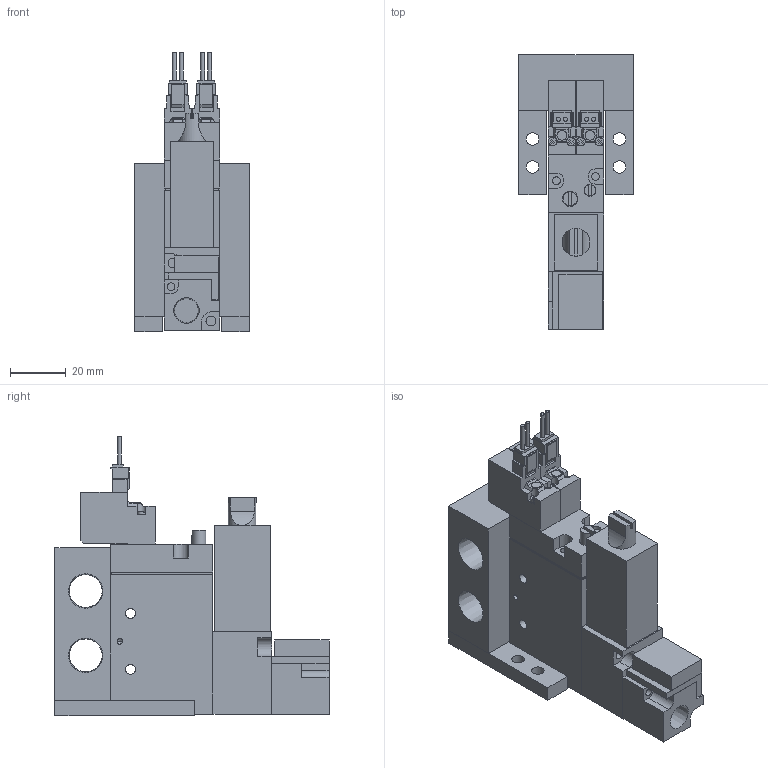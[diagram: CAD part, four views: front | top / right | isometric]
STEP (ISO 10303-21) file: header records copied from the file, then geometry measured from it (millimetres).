
FILE_DESCRIPTION(('STEP AP203'),'1');
FILE_NAME('BMPV32M2NZ25BL101.stp','2025-06-17T01:45:49',(' '),(' '),'Spatial InterOp 3D',' ',' ');
FILE_SCHEMA(('CONFIG_CONTROL_DESIGN'));
Length unit declared in the file: millimetre
Products named in the file (16): BMPV32M2NZ25BL101; MB01; MB BRACKET; S____; ___ ___2; ___-2(Rc); Filter Assy; __; _____; ___; upper plate-A; ______; ____; VACUUM VALVE FUNCTION MPV42-A
Assembly tree (15 placements, depth 2):
  BMPV32M2NZ25BL101
    MB01
    MB BRACKET
    MB BRACKET
    S____
    ___ ___2
    ___-2(Rc)
    Filter Assy
    __
    _____
    ___
    upper plate-A
    ______
    ____
    VACUUM VALVE FUNCTION MPV42-A
    VACUUM VALVE FUNCTION MPV42-A
Bounding box: 41 x 98 x 99.75 mm (x, y, z)
Volume: 125073.9 mm3; surface area: 45010.1 mm2
Topology: 15 solids, 15 shells, 386 faces, 995 edges, 660 vertices
Faces by surface type: plane 299, cylinder 73, cone 14
Full cylindrical faces by diameter (mm): 1.4 x4, 1.8 x2, 2 x2, 2.5 x6, 2.8 x4, 3 x4, 3.5 x14, 4 x1, 4.2 x1, 4.5 x4, 5 x1, 5.5 x1, 6.5 x6, 8.522 x1, 11.776 x2
Entity records: 12121 total; most frequent: CARTESIAN_POINT 2028, DIRECTION 1891, ORIENTED_EDGE 1810, EDGE_CURVE 905, LINE 715, VECTOR 715, VERTEX_POINT 647, AXIS2_PLACEMENT_3D 588
